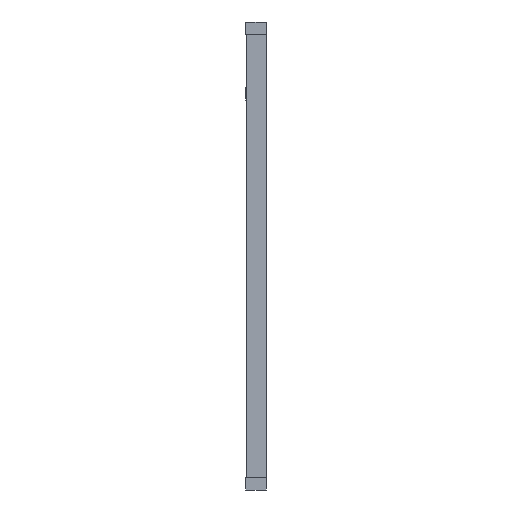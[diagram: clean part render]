
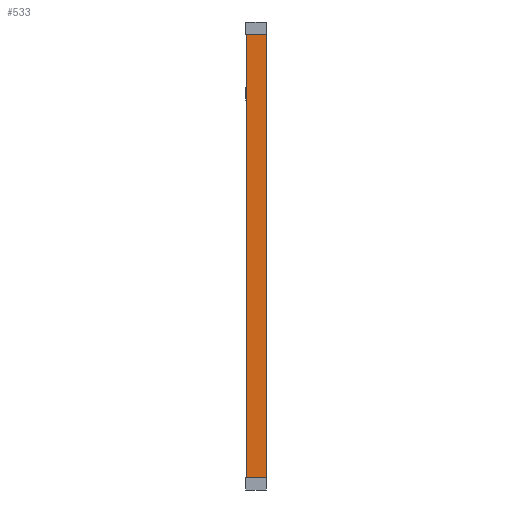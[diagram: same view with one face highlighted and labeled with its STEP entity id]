
A CAD part, left-side view. The second image highlights one B-rep face of the part: STEP entity #533.
In plain terms, the highlighted planar face has unit normal (-1, 0, 0).
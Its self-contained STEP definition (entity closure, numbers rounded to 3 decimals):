
#415=CARTESIAN_POINT('',(0.0,0.0,62.0));
#418=CARTESIAN_POINT('',(0.0,100.0,62.0));
#419=CARTESIAN_POINT('',(0.0,0.0,2338.0));
#422=CARTESIAN_POINT('',(0.0,100.0,2338.0));
#423=VERTEX_POINT('',#415);
#426=VERTEX_POINT('',#418);
#427=VERTEX_POINT('',#419);
#430=VERTEX_POINT('',#422);
#443=DIRECTION('',(0.0,-1.0,0.0));
#444=VECTOR('',#443,1.0);
#445=LINE('',#418,#444);
#446=EDGE_CURVE('',#426,#423,#445,.T.);
#459=DIRECTION('',(0.0,-1.0,0.0));
#460=VECTOR('',#459,1.0);
#461=LINE('',#422,#460);
#462=EDGE_CURVE('',#430,#427,#461,.T.);
#463=DIRECTION('',(0.0,0.0,1.0));
#464=VECTOR('',#463,1.0);
#465=LINE('',#415,#464);
#466=EDGE_CURVE('',#423,#427,#465,.T.);
#475=DIRECTION('',(0.0,0.0,1.0));
#476=VECTOR('',#475,1.0);
#477=LINE('',#418,#476);
#478=EDGE_CURVE('',#426,#430,#477,.T.);
#523=ORIENTED_EDGE('',*,*,#466,.T.);
#524=ORIENTED_EDGE('',*,*,#462,.F.);
#525=ORIENTED_EDGE('',*,*,#478,.F.);
#526=ORIENTED_EDGE('',*,*,#446,.T.);
#527=EDGE_LOOP('',(#523,#524,#525,#526));
#528=FACE_OUTER_BOUND('',#527,.T.);
#529=DIRECTION('',(-1.0,0.0,0.0));
#530=DIRECTION('',(0.0,1.0,0.0));
#531=AXIS2_PLACEMENT_3D('',#415,#529,#530);
#532=PLANE('',#531);
#533=ADVANCED_FACE('',(#528),#532,.T.);
